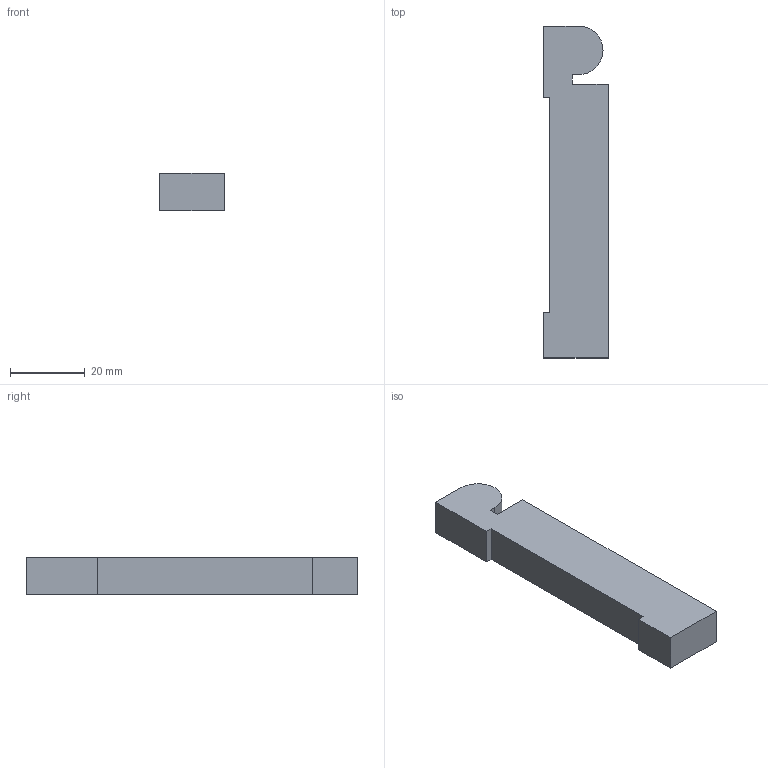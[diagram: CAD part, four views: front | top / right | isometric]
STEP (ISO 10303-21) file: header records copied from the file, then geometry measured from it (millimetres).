
FILE_DESCRIPTION (( 'STEP AP203' ), '1' );
FILE_NAME ('AB110FJ.STEP', '2024-02-16T18:17:23', ( '' ), ( '' ), 'SwSTEP 2.0', 'SolidWorks 2020', '' );
FILE_SCHEMA (( 'CONFIG_CONTROL_DESIGN' ));
Length unit declared in the file: millimetre
Products named in the file (1): AB110FJ
Bounding box: 17.34 x 89.02 x 10 mm (x, y, z)
Volume: 13833.6 mm3; surface area: 5036.7 mm2
Topology: 1 solids, 1 shells, 14 faces, 36 edges, 24 vertices
Faces by surface type: plane 13, cylinder 1
Entity records: 499 total; most frequent: CARTESIAN_POINT 75, ORIENTED_EDGE 72, DIRECTION 68, EDGE_CURVE 36, LINE 34, VECTOR 34, VERTEX_POINT 24, AXIS2_PLACEMENT_3D 17
